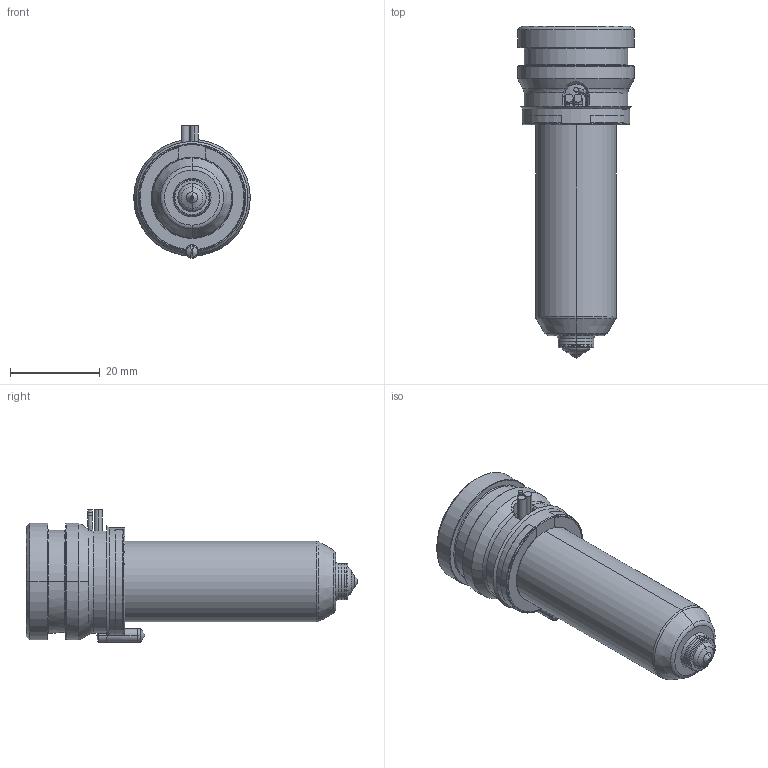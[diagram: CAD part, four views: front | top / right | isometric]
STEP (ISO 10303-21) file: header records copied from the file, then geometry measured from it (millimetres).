
FILE_DESCRIPTION((''),'2;1');
FILE_NAME('TH18056-A-1GLT-PK-JG','2023-12-14T',('umhib'),('Thermoplay S.p.A.'),'PRO/ENGINEER BY PARAMETRIC TECHNOLOGY CORPORATION, 2017170','PRO/ENGINEER BY PARAMETRIC TECHNOLOGY CORPORATION, 2017170','');
FILE_SCHEMA(('CONFIG_CONTROL_DESIGN'));
Length unit declared in the file: millimetre
Products named in the file (1): TH18056-A-1GLT-PK-JG
Bounding box: 26 x 74 x 29.5 mm (x, y, z)
Volume: 16880.3 mm3; surface area: 12526.7 mm2
Topology: 1 solids, 2 shells, 418 faces, 1085 edges, 675 vertices
Faces by surface type: cylinder 162, plane 90, cone 68, torus 62, bspline 24, sphere 10, extrusion 2
Entity records: 18149 total; most frequent: CARTESIAN_POINT 5866, DIRECTION 2189, ORIENTED_EDGE 2146, EDGE_CURVE 1075, AXIS2_PLACEMENT_3D 887, VERTEX_POINT 675, CIRCLE 494, EDGE_LOOP 443
